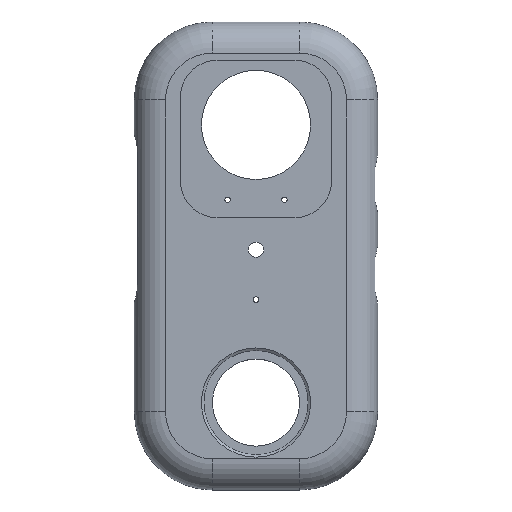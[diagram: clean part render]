
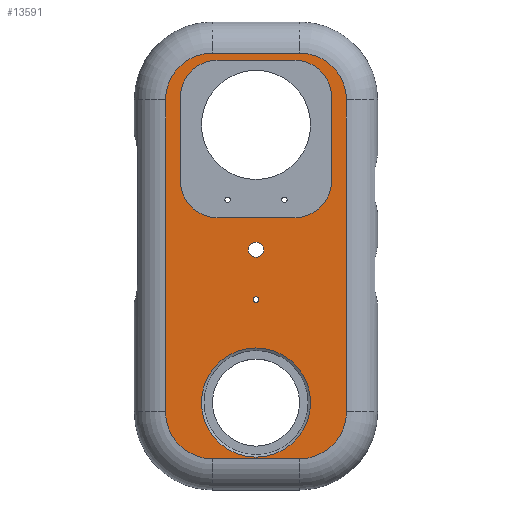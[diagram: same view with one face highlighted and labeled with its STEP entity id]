
A CAD part, top view. The second image highlights one B-rep face of the part: STEP entity #13591.
In plain terms, the highlighted planar face has unit normal (0, 0, 1).
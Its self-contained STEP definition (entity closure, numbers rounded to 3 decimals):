
#65=FACE_BOUND('',#1792,.T.);
#66=FACE_BOUND('',#1793,.T.);
#67=FACE_BOUND('',#1794,.T.);
#68=FACE_BOUND('',#1795,.T.);
#364=PLANE('',#14727);
#1040=FACE_OUTER_BOUND('',#1791,.T.);
#1791=EDGE_LOOP('',(#10956,#10957,#10958,#10959,#10960,#10961,#10962,#10963));
#1792=EDGE_LOOP('',(#10964));
#1793=EDGE_LOOP('',(#10965,#10966,#10967,#10968,#10969,#10970,#10971,#10972));
#1794=EDGE_LOOP('',(#10973));
#1795=EDGE_LOOP('',(#10974));
#2195=LINE('',#19274,#3605);
#2197=LINE('',#19282,#3607);
#2205=LINE('',#19313,#3615);
#2209=LINE('',#19325,#3619);
#2940=LINE('',#22596,#4350);
#2943=LINE('',#22603,#4353);
#2959=LINE('',#22642,#4369);
#2960=LINE('',#22647,#4370);
#3605=VECTOR('',#15285,10.);
#3607=VECTOR('',#15293,10.);
#3615=VECTOR('',#15325,10.);
#3619=VECTOR('',#15337,10.);
#4350=VECTOR('',#17542,10.);
#4353=VECTOR('',#17551,10.);
#4369=VECTOR('',#17587,10.);
#4370=VECTOR('',#17592,10.);
#5097=CIRCLE('',#13971,11.7);
#5099=CIRCLE('',#13975,11.7);
#5120=CIRCLE('',#14006,2.45);
#5122=CIRCLE('',#14009,17.5);
#5123=CIRCLE('',#14011,0.9);
#5450=CIRCLE('',#14713,11.7);
#5451=CIRCLE('',#14716,11.7);
#5455=CIRCLE('',#14728,15.);
#5456=CIRCLE('',#14729,15.);
#5457=CIRCLE('',#14730,15.);
#5458=CIRCLE('',#14731,15.);
#5647=VERTEX_POINT('',#19271);
#5648=VERTEX_POINT('',#19273);
#5650=VERTEX_POINT('',#19279);
#5651=VERTEX_POINT('',#19281);
#5658=VERTEX_POINT('',#19303);
#5659=VERTEX_POINT('',#19304);
#5662=VERTEX_POINT('',#19312);
#5664=VERTEX_POINT('',#19318);
#5666=VERTEX_POINT('',#19324);
#5726=VERTEX_POINT('',#19501);
#5728=VERTEX_POINT('',#19507);
#5729=VERTEX_POINT('',#19511);
#6463=VERTEX_POINT('',#22591);
#6464=VERTEX_POINT('',#22595);
#6465=VERTEX_POINT('',#22599);
#6477=VERTEX_POINT('',#22640);
#6478=VERTEX_POINT('',#22641);
#6479=VERTEX_POINT('',#22644);
#6480=VERTEX_POINT('',#22646);
#6987=EDGE_CURVE('',#5647,#5648,#2195,.T.);
#6991=EDGE_CURVE('',#5650,#5651,#2197,.T.);
#7002=EDGE_CURVE('',#5658,#5659,#5097,.T.);
#7006=EDGE_CURVE('',#5662,#5658,#2205,.T.);
#7009=EDGE_CURVE('',#5664,#5662,#5099,.T.);
#7012=EDGE_CURVE('',#5666,#5664,#2209,.T.);
#7080=EDGE_CURVE('',#5726,#5726,#5120,.T.);
#7083=EDGE_CURVE('',#5728,#5728,#5122,.T.);
#7084=EDGE_CURVE('',#5729,#5729,#5123,.T.);
#8146=EDGE_CURVE('',#6463,#5666,#5450,.T.);
#8148=EDGE_CURVE('',#6464,#6463,#2940,.T.);
#8150=EDGE_CURVE('',#6465,#6464,#5451,.T.);
#8152=EDGE_CURVE('',#5659,#6465,#2943,.T.);
#8171=EDGE_CURVE('',#6477,#6478,#2959,.T.);
#8172=EDGE_CURVE('',#5651,#6477,#5455,.T.);
#8173=EDGE_CURVE('',#6479,#5650,#5456,.T.);
#8174=EDGE_CURVE('',#6480,#6479,#2960,.T.);
#8175=EDGE_CURVE('',#5648,#6480,#5457,.T.);
#8176=EDGE_CURVE('',#6478,#5647,#5458,.T.);
#10956=ORIENTED_EDGE('',*,*,#8171,.F.);
#10957=ORIENTED_EDGE('',*,*,#8172,.F.);
#10958=ORIENTED_EDGE('',*,*,#6991,.F.);
#10959=ORIENTED_EDGE('',*,*,#8173,.F.);
#10960=ORIENTED_EDGE('',*,*,#8174,.F.);
#10961=ORIENTED_EDGE('',*,*,#8175,.F.);
#10962=ORIENTED_EDGE('',*,*,#6987,.F.);
#10963=ORIENTED_EDGE('',*,*,#8176,.F.);
#10964=ORIENTED_EDGE('',*,*,#7080,.T.);
#10965=ORIENTED_EDGE('',*,*,#7012,.T.);
#10966=ORIENTED_EDGE('',*,*,#7009,.T.);
#10967=ORIENTED_EDGE('',*,*,#7006,.T.);
#10968=ORIENTED_EDGE('',*,*,#7002,.T.);
#10969=ORIENTED_EDGE('',*,*,#8152,.T.);
#10970=ORIENTED_EDGE('',*,*,#8150,.T.);
#10971=ORIENTED_EDGE('',*,*,#8148,.T.);
#10972=ORIENTED_EDGE('',*,*,#8146,.T.);
#10973=ORIENTED_EDGE('',*,*,#7083,.T.);
#10974=ORIENTED_EDGE('',*,*,#7084,.T.);
#13591=ADVANCED_FACE('',(#1040,#65,#66,#67,#68),#364,.T.);
#13971=AXIS2_PLACEMENT_3D('',#19305,#15317,#15318);
#13975=AXIS2_PLACEMENT_3D('',#19319,#15330,#15331);
#14006=AXIS2_PLACEMENT_3D('',#19503,#15435,#15436);
#14009=AXIS2_PLACEMENT_3D('',#19509,#15442,#15443);
#14011=AXIS2_PLACEMENT_3D('',#19512,#15446,#15447);
#14713=AXIS2_PLACEMENT_3D('',#22592,#17537,#17538);
#14716=AXIS2_PLACEMENT_3D('',#22600,#17546,#17547);
#14727=AXIS2_PLACEMENT_3D('',#22639,#17585,#17586);
#14728=AXIS2_PLACEMENT_3D('',#22643,#17588,#17589);
#14729=AXIS2_PLACEMENT_3D('',#22645,#17590,#17591);
#14730=AXIS2_PLACEMENT_3D('',#22648,#17593,#17594);
#14731=AXIS2_PLACEMENT_3D('',#22649,#17595,#17596);
#15285=DIRECTION('',(1.,0.,0.));
#15293=DIRECTION('',(-1.,0.,0.));
#15317=DIRECTION('center_axis',(0.,0.,-1.));
#15318=DIRECTION('ref_axis',(1.,0.,0.));
#15325=DIRECTION('',(0.,-1.,0.));
#15330=DIRECTION('center_axis',(0.,0.,-1.));
#15331=DIRECTION('ref_axis',(1.,0.,0.));
#15337=DIRECTION('',(1.,0.,0.));
#15435=DIRECTION('center_axis',(0.,0.,-1.));
#15436=DIRECTION('ref_axis',(1.,0.,0.));
#15442=DIRECTION('center_axis',(0.,0.,-1.));
#15443=DIRECTION('ref_axis',(1.,0.,0.));
#15446=DIRECTION('center_axis',(0.,0.,-1.));
#15447=DIRECTION('ref_axis',(-1.,0.,0.));
#17537=DIRECTION('center_axis',(0.,0.,-1.));
#17538=DIRECTION('ref_axis',(1.,0.,0.));
#17542=DIRECTION('',(0.,1.,0.));
#17546=DIRECTION('center_axis',(0.,0.,-1.));
#17547=DIRECTION('ref_axis',(1.,0.,0.));
#17551=DIRECTION('',(-1.,0.,0.));
#17585=DIRECTION('center_axis',(0.,0.,1.));
#17586=DIRECTION('ref_axis',(1.,0.,0.));
#17587=DIRECTION('',(0.,1.,0.));
#17588=DIRECTION('center_axis',(0.,0.,-1.));
#17589=DIRECTION('ref_axis',(-0.707,-0.707,0.));
#17590=DIRECTION('center_axis',(0.,0.,-1.));
#17591=DIRECTION('ref_axis',(0.707,-0.707,0.));
#17592=DIRECTION('',(0.,-1.,0.));
#17593=DIRECTION('center_axis',(0.,0.,-1.));
#17594=DIRECTION('ref_axis',(0.707,0.707,0.));
#17595=DIRECTION('center_axis',(0.,0.,-1.));
#17596=DIRECTION('ref_axis',(-0.707,0.707,0.));
#19271=CARTESIAN_POINT('',(-14.,65.,0.));
#19273=CARTESIAN_POINT('',(14.,65.,0.));
#19274=CARTESIAN_POINT('',(0.,65.,0.));
#19279=CARTESIAN_POINT('',(14.,-65.,0.));
#19281=CARTESIAN_POINT('',(-14.,-65.,0.));
#19282=CARTESIAN_POINT('',(0.,-65.,0.));
#19303=CARTESIAN_POINT('',(24.2,24.,0.));
#19304=CARTESIAN_POINT('',(12.5,12.3,0.));
#19305=CARTESIAN_POINT('Origin',(12.5,24.,0.));
#19312=CARTESIAN_POINT('',(24.2,51.,0.));
#19313=CARTESIAN_POINT('',(24.2,18.75,0.));
#19318=CARTESIAN_POINT('',(12.5,62.7,0.));
#19319=CARTESIAN_POINT('Origin',(12.5,51.,0.));
#19324=CARTESIAN_POINT('',(-12.5,62.7,0.));
#19325=CARTESIAN_POINT('',(0.,62.7,0.));
#19501=CARTESIAN_POINT('',(-2.45,2.,0.));
#19503=CARTESIAN_POINT('Origin',(0.,2.,0.));
#19507=CARTESIAN_POINT('',(-17.5,-47.,0.));
#19509=CARTESIAN_POINT('Origin',(0.,-47.,0.));
#19511=CARTESIAN_POINT('',(0.9,-14.,0.));
#19512=CARTESIAN_POINT('Origin',(0.,-14.,0.));
#22591=CARTESIAN_POINT('',(-24.2,51.,0.));
#22592=CARTESIAN_POINT('Origin',(-12.5,51.,0.));
#22595=CARTESIAN_POINT('',(-24.2,24.,0.));
#22596=CARTESIAN_POINT('',(-24.2,18.75,0.));
#22599=CARTESIAN_POINT('',(-12.5,12.3,0.));
#22600=CARTESIAN_POINT('Origin',(-12.5,24.,0.));
#22603=CARTESIAN_POINT('',(0.,12.3,0.));
#22639=CARTESIAN_POINT('Origin',(0.,0.,0.));
#22640=CARTESIAN_POINT('',(-29.,-50.,0.));
#22641=CARTESIAN_POINT('',(-29.,50.,0.));
#22642=CARTESIAN_POINT('',(-29.,0.,0.));
#22643=CARTESIAN_POINT('Origin',(-14.,-50.,0.));
#22644=CARTESIAN_POINT('',(29.,-50.,0.));
#22645=CARTESIAN_POINT('Origin',(14.,-50.,0.));
#22646=CARTESIAN_POINT('',(29.,50.,0.));
#22647=CARTESIAN_POINT('',(29.,0.,0.));
#22648=CARTESIAN_POINT('Origin',(14.,50.,0.));
#22649=CARTESIAN_POINT('Origin',(-14.,50.,0.));
